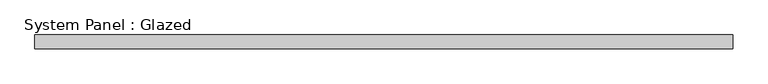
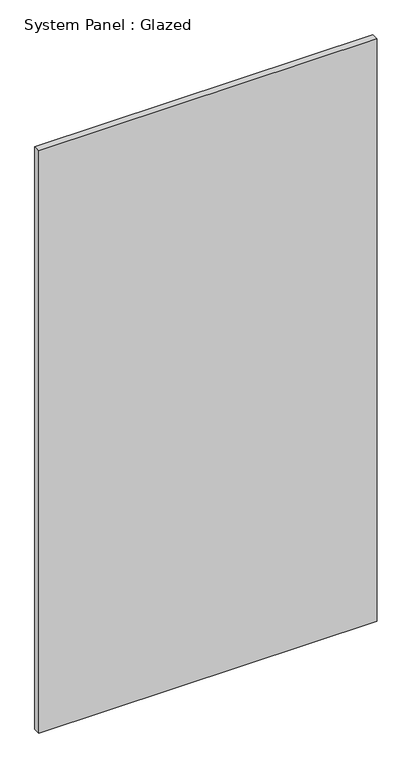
"""IFC4 building model written with IfcOpenShell, lengths in millimetres: plate geometry, System Panel : Glazed."""

import ifcopenshell
import ifcopenshell.guid

model = None  # the IFC model being written
_history = None  # IfcOwnerHistory: only IFC2X3 demands one
_inside = {}  # id of a spatial element -> (the spatial element, [elements in it])
_under = {}  # id of a project, library or spatial element -> (it, [spatial elements below it])
_declared = {}  # id of a project -> (the project, [libraries it declares])
_typed = {}  # id of a type object -> (the type object, [elements of that type])
_made_of = {}  # id of a material, layer set ... -> (it, [elements and type objects made of it])


def new_model(schema):
    """Start an empty IFC model of exactly this schema.

    Asked for "IFC4X3", IfcOpenShell would pick the latest addendum, in which some entities
    have other attributes; the version numbers below select the first issue.
    IFC2X3 requires an IfcOwnerHistory on every rooted entity: one is made here for all.
    """
    global model, _history
    if schema == "IFC4X3":
        model = ifcopenshell.file(schema_version=(4, 3, 0, 0))
    else:
        model = ifcopenshell.file(schema=schema)
    _inside.clear()
    _under.clear()
    _declared.clear()
    _typed.clear()
    _made_of.clear()
    _history = None
    if model.schema == "IFC2X3":
        org = make("IfcOrganization", Name="unknown")
        user = make(
            "IfcPersonAndOrganization",
            ThePerson=make("IfcPerson", FamilyName="unknown"),
            TheOrganization=org,
        )
        app = make(
            "IfcApplication",
            ApplicationDeveloper=org,
            Version="unknown",
            ApplicationFullName="unknown",
            ApplicationIdentifier="unknown",
        )
        _history = make(
            "IfcOwnerHistory",
            OwningUser=user,
            OwningApplication=app,
            ChangeAction="ADDED",
            CreationDate=0,
        )
    return model


def make(cls, **values):
    """One entity of the class cls with the attributes given. An attribute that is None is left unset."""
    return model.create_entity(
        cls, **{name: value for name, value in values.items() if value is not None}
    )


def rooted(cls, **values):
    """An entity with a GlobalId (a new one), such as an element, a storey or a relation."""
    return make(cls, GlobalId=ifcopenshell.guid.new(), OwnerHistory=_history, **values)


def si_unit(unit_type, name, prefix=None):
    """IfcSIUnit, for example si_unit("LENGTHUNIT", "METRE", prefix="MILLI")."""
    return make("IfcSIUnit", UnitType=unit_type, Prefix=prefix, Name=name)


def assignment(units):
    """IfcUnitAssignment: the units of a project."""
    return None if units is None else make("IfcUnitAssignment", Units=units)


def point(xyz):
    """IfcCartesianPoint."""
    return None if xyz is None else make("IfcCartesianPoint", Coordinates=xyz)


def direction(xyz):
    """IfcDirection."""
    return None if xyz is None else make("IfcDirection", DirectionRatios=xyz)


def frame(location, z_axis=None, x_axis=None):
    """IfcAxis2Placement3D, a coordinate frame: its origin and axes. An axis left out is left unset."""
    return make(
        "IfcAxis2Placement3D",
        Location=point(location),
        Axis=direction(z_axis),
        RefDirection=direction(x_axis),
    )


def origin():
    """The frame at (0, 0, 0) with its axes left unset."""
    return frame((0.0, 0.0, 0.0))


def origin_with_axes():
    """The frame at (0, 0, 0) with the z axis (0, 0, 1) and the x axis (1, 0, 0) written out."""
    return frame((0.0, 0.0, 0.0), z_axis=(0.0, 0.0, 1.0), x_axis=(1.0, 0.0, 0.0))


def place(relative_to, where):
    """IfcLocalPlacement: puts the frame where relative to a parent placement (None: the world)."""
    return make(
        "IfcLocalPlacement", PlacementRelTo=relative_to, RelativePlacement=where
    )


def context(
    kind, dimensions, precision=None, world=None, true_north=None, identifier=None
):
    """IfcGeometricRepresentationContext, for example the 3D "Model" context."""
    return make(
        "IfcGeometricRepresentationContext",
        ContextIdentifier=identifier,
        ContextType=kind,
        CoordinateSpaceDimension=dimensions,
        Precision=precision,
        WorldCoordinateSystem=world,
        TrueNorth=true_north,
    )


def project(units=None, contexts=None):
    """IfcProject with its units and contexts."""
    return rooted(
        "IfcProject",
        Name="project",
        RepresentationContexts=contexts,
        UnitsInContext=assignment(units),
    )


def spatial(cls, under=None, at=None, **own):
    """A site, building, storey or space (cls), placed at a placement, below another one or the project."""
    s = rooted(cls, ObjectPlacement=at, **own)
    if under is not None:
        _under.setdefault(under.id(), (under, []))[1].append(s)
    return s


def polyline(points):
    """IfcPolyline through the points."""
    return make("IfcPolyline", Points=[point(p) for p in points])


def outline(outer, holes=None, kind="AREA"):
    """IfcArbitraryClosedProfileDef: a profile drawn as a closed curve; with holes, ...WithVoids."""
    if holes is None:
        return make("IfcArbitraryClosedProfileDef", ProfileType=kind, OuterCurve=outer)
    return make(
        "IfcArbitraryProfileDefWithVoids",
        ProfileType=kind,
        OuterCurve=outer,
        InnerCurves=holes,
    )


def extrude(swept, where, along, depth):
    """IfcExtrudedAreaSolid: the profile swept, set in the frame where, extruded along a direction by depth."""
    return make(
        "IfcExtrudedAreaSolid",
        SweptArea=swept,
        Position=where,
        ExtrudedDirection=direction(along),
        Depth=depth,
    )


def shape(context_of_items, identifier, shape_type, items):
    """IfcShapeRepresentation: the items that make up one representation, for example the "Body"."""
    return make(
        "IfcShapeRepresentation",
        ContextOfItems=context_of_items,
        RepresentationIdentifier=identifier,
        RepresentationType=shape_type,
        Items=items,
    )


def source(mapping_origin, context_of_items, identifier, shape_type, items):
    """IfcRepresentationMap: a shape defined once, which mapped items show again and again."""
    return make(
        "IfcRepresentationMap",
        MappingOrigin=mapping_origin,
        MappedRepresentation=shape(context_of_items, identifier, shape_type, items),
    )


def transform(
    local_origin,
    x_axis=None,
    y_axis=None,
    z_axis=None,
    scale=None,
    scale2=None,
    scale3=None,
    uniform=True,
):
    """IfcCartesianTransformationOperator3D, or its non-uniform kind. x_axis, y_axis, z_axis: its Axis1, 2, 3."""
    if uniform:
        return make(
            "IfcCartesianTransformationOperator3D",
            Axis1=direction(x_axis),
            Axis2=direction(y_axis),
            LocalOrigin=point(local_origin),
            Scale=scale,
            Axis3=direction(z_axis),
        )
    return make(
        "IfcCartesianTransformationOperator3DnonUniform",
        Axis1=direction(x_axis),
        Axis2=direction(y_axis),
        LocalOrigin=point(local_origin),
        Scale=scale,
        Axis3=direction(z_axis),
        Scale2=scale2,
        Scale3=scale3,
    )


def mapped(mapping_source, mapping_target):
    """IfcMappedItem: shows the shape of a source again, moved by a transform."""
    return make(
        "IfcMappedItem", MappingSource=mapping_source, MappingTarget=mapping_target
    )


def made_of(thing, what):
    """Note that an element or type object is made of a material, layer set ...; save() writes the relation."""
    if what is not None:
        _made_of.setdefault(what.id(), (what, []))[1].append(thing)
    return thing


def element(
    cls,
    number,
    at=None,
    inside=None,
    cuts=None,
    type_object=None,
    material=None,
    context=None,
    identifier="Body",
    shape_type=None,
    held_by="IfcProductDefinitionShape",
    body=None,
    shapes=None,
    **own,
):
    """One element of the class cls, such as IfcWall. Its Tag is "e" and its number.

    at: its placement. inside: the storey or other place that contains it. cuts: it is an
    opening in that element (IfcRelVoidsElement). A single representation is given by context,
    identifier, shape_type and body (its items); several are given by shapes. held_by: the class
    of the entity that holds the representations. save() writes the other relations.
    """
    e = rooted(cls, Tag="e%d" % number, ObjectPlacement=at, **own)
    if body is not None:
        shapes = [shape(context, identifier, shape_type, body)]
    if shapes is not None:
        e.Representation = make(held_by, Representations=shapes)
    if inside is not None:
        _inside.setdefault(inside.id(), (inside, []))[1].append(e)
    if cuts is not None:
        rooted(
            "IfcRelVoidsElement", RelatingBuildingElement=cuts, RelatedOpeningElement=e
        )
    if type_object is not None:
        _typed.setdefault(type_object.id(), (type_object, []))[1].append(e)
    return made_of(e, material)


def aggregate(whole, parts):
    """IfcRelAggregates: a whole, such as a stair, and the parts it consists of."""
    return rooted("IfcRelAggregates", RelatingObject=whole, RelatedObjects=parts)


def save(model, path):
    """Write the relations noted so far, then the file.

    IfcRelAggregates (storeys below a building ...), IfcRelContainedInSpatialStructure (elements
    in a storey), IfcRelDefinesByType, IfcRelAssociatesMaterial and IfcRelDeclares: one each for
    every whole, place, type object, material and project.
    """
    for whole, parts in _under.values():
        aggregate(whole, parts)
    for where, things in _inside.values():
        rooted(
            "IfcRelContainedInSpatialStructure",
            RelatedElements=things,
            RelatingStructure=where,
        )
    for kind, things in _typed.values():
        rooted("IfcRelDefinesByType", RelatedObjects=things, RelatingType=kind)
    for what, things in _made_of.values():
        rooted("IfcRelAssociatesMaterial", RelatedObjects=things, RelatingMaterial=what)
    for by, libraries in _declared.values():
        rooted("IfcRelDeclares", RelatingContext=by, RelatedDefinitions=libraries)
    model.write(path)


def system_panel_glazed_d144a7da(model_context):
    return source(origin(), model_context, "Body", "SweptSolid", [
        extrude(outline(polyline([(639.1601177, -49.5), (-639.1601177, -49.5), (-639.1601177, -24.5), (639.1601177, -24.5), (639.1601177, -49.5)])), origin_with_axes(), (0.0, 0.0, 1.0), 2325.0),
    ])


if __name__ == "__main__":
    model = new_model("IFC4")
    model_context = context("Model", 3, world=origin())
    ifc_project = project(units=[si_unit("LENGTHUNIT", "METRE", prefix="MILLI")], contexts=[model_context])
    site = spatial("IfcSite", under=ifc_project)
    building = spatial("IfcBuilding", under=site)
    placement = place(None, origin())
    system_panel_glazed_shape = system_panel_glazed_d144a7da(model_context)
    element("IfcPlate", 1, ObjectType="System Panel : Glazed", at=placement, inside=building, context=model_context, shape_type="MappedRepresentation", body=[
        mapped(system_panel_glazed_shape, transform((0.0, 0.0, 0.0), x_axis=(1.0, 0.0, 0.0), y_axis=(0.0, 1.0, 0.0), z_axis=(0.0, 0.0, 1.0))),
    ])
    save(model, "model.ifc")
